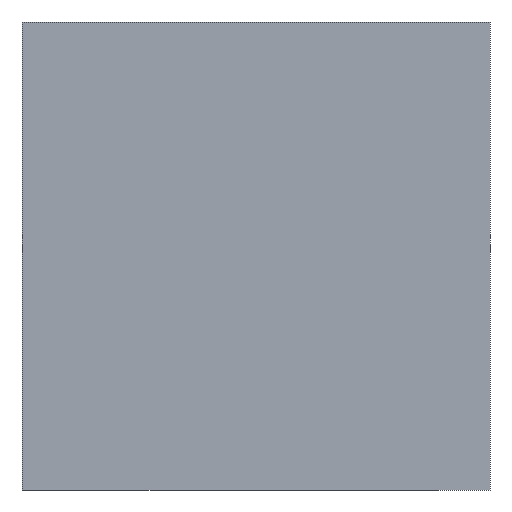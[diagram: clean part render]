
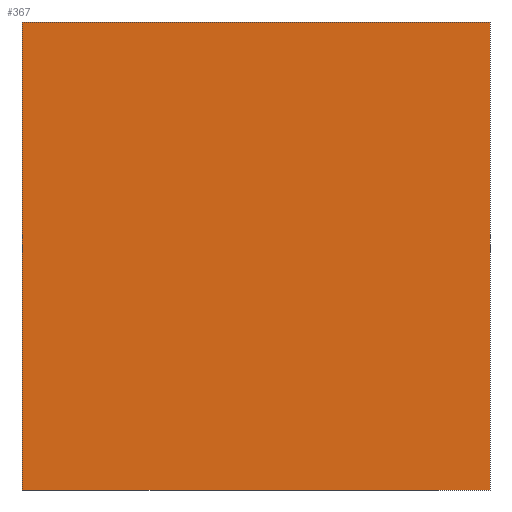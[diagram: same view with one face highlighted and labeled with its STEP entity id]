
A CAD part, left-side view. The second image highlights one B-rep face of the part: STEP entity #367.
In plain terms, the highlighted planar face has unit normal (-1, 0, 0).
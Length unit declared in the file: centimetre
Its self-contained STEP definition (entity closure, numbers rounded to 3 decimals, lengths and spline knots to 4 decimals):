
#9 = CARTESIAN_POINT ( 'NONE',  ( 0., 1000., 1000. ) ) ;
#20 = DIRECTION ( 'NONE',  ( 1., 0., 0. ) ) ;
#32 = CARTESIAN_POINT ( 'NONE',  ( 0., 1000., 0. ) ) ;
#55 = LINE ( 'NONE', #427, #211 ) ;
#62 = CARTESIAN_POINT ( 'NONE',  ( 0., 1000., 1000. ) ) ;
#103 = CARTESIAN_POINT ( 'NONE',  ( 0., 1000., 0. ) ) ;
#104 = VERTEX_POINT ( 'NONE', #306 ) ;
#119 = LINE ( 'NONE', #346, #406 ) ;
#131 = DIRECTION ( 'NONE',  ( 0., 0., -1. ) ) ;
#154 = EDGE_CURVE ( 'NONE', #215, #389, #194, .T. ) ;
#174 = LINE ( 'NONE', #103, #422 ) ;
#189 = ORIENTED_EDGE ( 'NONE', *, *, #414, .T. ) ;
#194 = LINE ( 'NONE', #232, #272 ) ;
#207 = DIRECTION ( 'NONE',  ( 0., -1., 0. ) ) ;
#211 = VECTOR ( 'NONE', #207, 100. ) ;
#212 = ORIENTED_EDGE ( 'NONE', *, *, #311, .F. ) ;
#215 = VERTEX_POINT ( 'NONE', #9 ) ;
#232 = CARTESIAN_POINT ( 'NONE',  ( 0., 1000., 1000. ) ) ;
#242 = DIRECTION ( 'NONE',  ( 0., -1., 0. ) ) ;
#249 = FACE_OUTER_BOUND ( 'NONE', #432, .T. ) ;
#270 = CARTESIAN_POINT ( 'NONE',  ( 0., 0., 0. ) ) ;
#272 = VECTOR ( 'NONE', #459, 100. ) ;
#282 = ORIENTED_EDGE ( 'NONE', *, *, #154, .T. ) ;
#289 = VERTEX_POINT ( 'NONE', #270 ) ;
#306 = CARTESIAN_POINT ( 'NONE',  ( 0., 0., 1000. ) ) ;
#311 = EDGE_CURVE ( 'NONE', #104, #289, #119, .T. ) ;
#346 = CARTESIAN_POINT ( 'NONE',  ( 0., 0., 1000. ) ) ;
#358 = AXIS2_PLACEMENT_3D ( 'NONE', #62, #20, #131 ) ;
#367 = ADVANCED_FACE ( 'NONE', ( #249 ), #430, .F. ) ;
#389 = VERTEX_POINT ( 'NONE', #32 ) ;
#406 = VECTOR ( 'NONE', #462, 100. ) ;
#414 = EDGE_CURVE ( 'NONE', #389, #289, #174, .T. ) ;
#422 = VECTOR ( 'NONE', #242, 100. ) ;
#427 = CARTESIAN_POINT ( 'NONE',  ( 0., 1000., 1000. ) ) ;
#428 = EDGE_CURVE ( 'NONE', #215, #104, #55, .T. ) ;
#430 = PLANE ( 'NONE',  #358 ) ;
#432 = EDGE_LOOP ( 'NONE', ( #189, #212, #436, #282 ) ) ;
#436 = ORIENTED_EDGE ( 'NONE', *, *, #428, .F. ) ;
#459 = DIRECTION ( 'NONE',  ( 0., 0., -1. ) ) ;
#462 = DIRECTION ( 'NONE',  ( 0., 0., -1. ) ) ;
